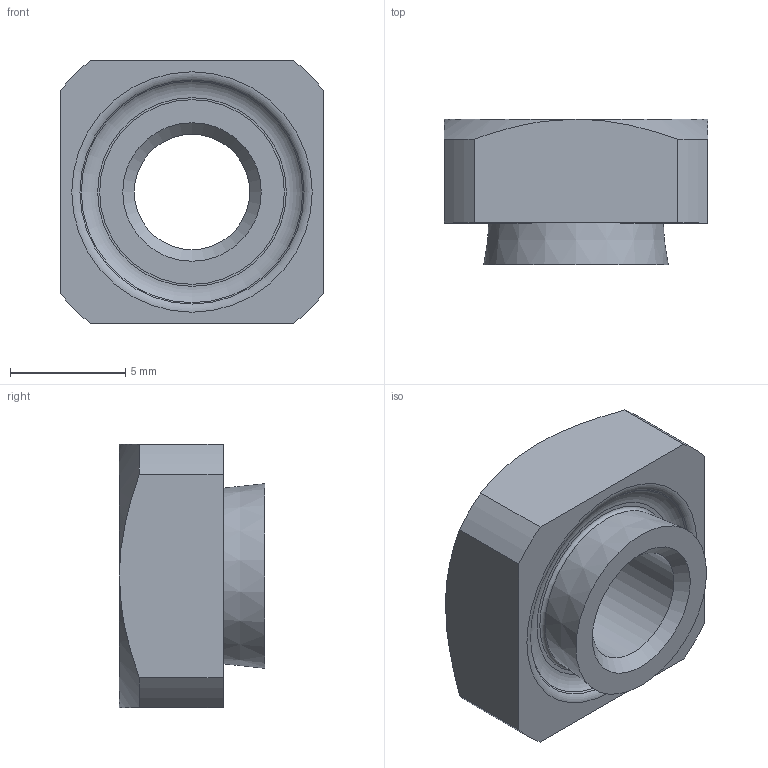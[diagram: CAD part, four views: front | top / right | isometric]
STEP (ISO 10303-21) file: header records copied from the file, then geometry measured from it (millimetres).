
FILE_DESCRIPTION(/* description */ (''),/* implementation_level */ '2;1');
FILE_NAME(/* name */ 'D:\Sukhmani\Fastit\HN Nut\HN 5-2.3.stp',/* time_stamp */ '2024-03-14T12:24:11+06:00',/* author */ ('edc.sukhmani'),/* organization */ (''),/* preprocessor_version */ 'ST-DEVELOPER v18.1',/* originating_system */ 'Autodesk Inventor 2022',/* authorisation */ '');
FILE_SCHEMA (('AUTOMOTIVE_DESIGN { 1 0 10303 214 3 1 1 }'));
Length unit declared in the file: millimetre
Products named in the file (1): HN 5-2.3
Bounding box: 11.4 x 6.3 x 11.4 mm (x, y, z)
Volume: 505.7 mm3; surface area: 548.9 mm2
Topology: 1 solids, 1 shells, 25 faces, 57 edges, 36 vertices
Faces by surface type: cone 8, plane 8, cylinder 6, torus 3
Full cylindrical faces by diameter (mm): 5 x1, 6 x1
Entity records: 753 total; most frequent: CARTESIAN_POINT 135, DIRECTION 132, ORIENTED_EDGE 114, EDGE_CURVE 57, AXIS2_PLACEMENT_3D 57, VERTEX_POINT 36, CIRCLE 31, EDGE_LOOP 29
